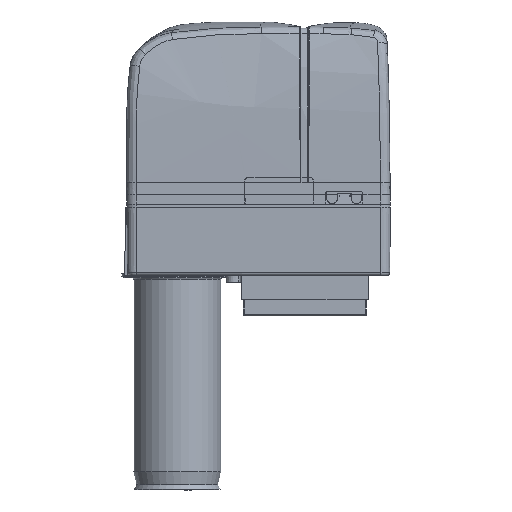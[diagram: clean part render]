
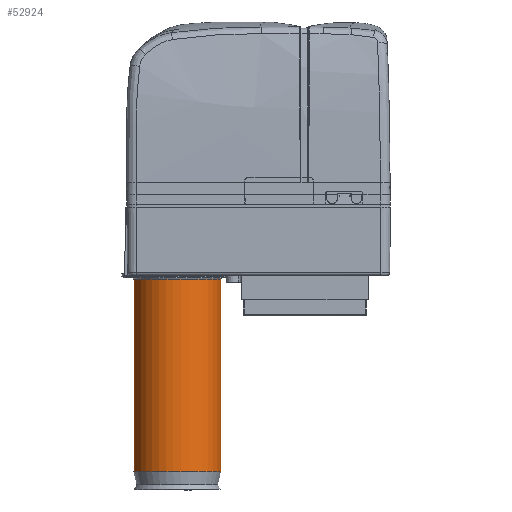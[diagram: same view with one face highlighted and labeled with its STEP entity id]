
A CAD part, left-side view. The second image highlights one B-rep face of the part: STEP entity #52924.
In plain terms, the highlighted cylindrical face has radius 45 mm (diameter 90 mm), a full revolution.
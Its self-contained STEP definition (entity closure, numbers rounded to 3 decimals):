
#1722 = CARTESIAN_POINT ( 'NONE',  ( -132.945, 34.208, -448.852 ) ) ;
#1964 = CARTESIAN_POINT ( 'NONE',  ( -129.006, 35.268, -448.449 ) ) ;
#2205 = CARTESIAN_POINT ( 'NONE',  ( -130.743, 34.753, -450.274 ) ) ;
#2446 = CARTESIAN_POINT ( 'NONE',  ( -132.945, 34.208, -447.497 ) ) ;
#5370 = VERTEX_POINT ( 'NONE', #58847 ) ;
#7093 = CARTESIAN_POINT ( 'NONE',  ( -132.842, 34.231, -449.106 ) ) ;
#7583 = CARTESIAN_POINT ( 'NONE',  ( -129.095, 35.24, -448.851 ) ) ;
#7821 = CARTESIAN_POINT ( 'NONE',  ( -132.984, 34.2, -448.721 ) ) ;
#8060 = CARTESIAN_POINT ( 'NONE',  ( -132.249, 34.368, -449.845 ) ) ;
#8386 = CARTESIAN_POINT ( 'NONE',  ( -99.189, 89.795, -459.325 ) ) ;
#8556 = CARTESIAN_POINT ( 'NONE',  ( -129.006, 35.268, -447.897 ) ) ;
#10929 = CARTESIAN_POINT ( 'NONE',  ( -142.656, 78.148, -261.674 ) ) ;
#12684 = CARTESIAN_POINT ( 'NONE',  ( -129.057, 35.252, -448.718 ) ) ;
#12916 = CARTESIAN_POINT ( 'NONE',  ( -129.403, 35.144, -449.454 ) ) ;
#13155 = CARTESIAN_POINT ( 'NONE',  ( -129.405, 35.143, -446.892 ) ) ;
#13405 = CARTESIAN_POINT ( 'NONE',  ( -131.14, 34.646, -450.274 ) ) ;
#14128 = CARTESIAN_POINT ( 'NONE',  ( -128.993, 35.272, -448.036 ) ) ;
#18047 = CARTESIAN_POINT ( 'NONE',  ( -130.484, 34.825, -446.141 ) ) ;
#18283 = CARTESIAN_POINT ( 'NONE',  ( -128.993, 35.272, -448.174 ) ) ;
#18441 = VERTEX_POINT ( 'NONE', #41544 ) ;
#18528 = CARTESIAN_POINT ( 'NONE',  ( -129.488, 35.118, -449.562 ) ) ;
#18622 = ORIENTED_EDGE ( 'NONE', *, *, #62838, .T. ) ;
#18768 = CARTESIAN_POINT ( 'NONE',  ( -132.028, 34.421, -449.997 ) ) ;
#18994 = DIRECTION ( 'NONE',  ( 0.966, 0.259, 0. ) ) ;
#19003 = CARTESIAN_POINT ( 'NONE',  ( -132.63, 34.279, -446.894 ) ) ;
#21829 = EDGE_CURVE ( 'NONE', #29883, #29883, #46963, .T. ) ;
#23687 = CARTESIAN_POINT ( 'NONE',  ( -130.114, 34.931, -446.286 ) ) ;
#24166 = CARTESIAN_POINT ( 'NONE',  ( -131.542, 34.541, -446.13 ) ) ;
#24403 = CARTESIAN_POINT ( 'NONE',  ( -130.477, 34.827, -450.219 ) ) ;
#24656 = CARTESIAN_POINT ( 'NONE',  ( -129.766, 35.033, -449.853 ) ) ;
#29294 = CARTESIAN_POINT ( 'NONE',  ( -129.676, 35.061, -446.59 ) ) ;
#29883 = VERTEX_POINT ( 'NONE', #8386 ) ;
#30018 = CARTESIAN_POINT ( 'NONE',  ( -132.842, 34.231, -447.243 ) ) ;
#30261 = CARTESIAN_POINT ( 'NONE',  ( -130.358, 34.861, -446.181 ) ) ;
#30922 = DIRECTION ( 'NONE',  ( 0., 0., 1. ) ) ;
#33197 = FACE_OUTER_BOUND ( 'NONE', #60140, .T. ) ;
#33380 = DIRECTION ( 'NONE',  ( 0.966, 0.259, 0. ) ) ;
#34928 = CARTESIAN_POINT ( 'NONE',  ( -128.993, 35.272, -448.313 ) ) ;
#35038 = ORIENTED_EDGE ( 'NONE', *, *, #21829, .T. ) ;
#35173 = CARTESIAN_POINT ( 'NONE',  ( -131.662, 34.512, -450.168 ) ) ;
#35647 = CARTESIAN_POINT ( 'NONE',  ( -129.991, 34.966, -450.009 ) ) ;
#35884 = CARTESIAN_POINT ( 'NONE',  ( -129.196, 35.208, -447.242 ) ) ;
#36712 = FACE_BOUND ( 'NONE', #72348, .T. ) ;
#39299 = B_SPLINE_CURVE_WITH_KNOTS ( 'NONE', 3,
 ( #18283, #34928, #1964, #12684, #7583, #40506, #68474, #12916, #18528, #24656, #35647, #24403, #2205, #13405, #52161, #41227, #35173, #57055, #18768, #8060, #69198, #40739, #40979, #57781, #7093, #1722, #7821, #46828, #46111, #51675, #63359, #41465, #2446, #30018, #52399, #19003, #47070, #57537, #51433, #24166, #63123, #58031, #63605, #18047, #30261, #23687, #46599, #62633, #29294, #57297, #13155, #68708, #35884, #68229, #58521, #8556, #14128, #63851 ),
 .UNSPECIFIED., .T., .F.,
 ( 4, 2, 2, 2, 2, 2, 2, 2, 2, 2, 2, 2, 2, 2, 2, 2, 2, 2, 2, 2, 2, 2, 2, 2, 2, 2, 2, 2, 4 ),
 ( 0., 0., 0.001, 0.001, 0.002, 0.002, 0.003, 0.004, 0.004, 0.005, 0.005, 0.005, 0.006, 0.006, 0.007, 0.007, 0.007, 0.008, 0.008, 0.009, 0.01, 0.01, 0.011, 0.011, 0.011, 0.012, 0.012, 0.013, 0.013 ),
 .UNSPECIFIED. ) ;
#40506 = CARTESIAN_POINT ( 'NONE',  ( -129.196, 35.208, -449.106 ) ) ;
#40739 = CARTESIAN_POINT ( 'NONE',  ( -132.544, 34.299, -449.562 ) ) ;
#40979 = CARTESIAN_POINT ( 'NONE',  ( -132.629, 34.279, -449.456 ) ) ;
#41003 = CYLINDRICAL_SURFACE ( 'NONE', #63982, 45. ) ;
#41227 = CARTESIAN_POINT ( 'NONE',  ( -131.535, 34.544, -450.207 ) ) ;
#41465 = CARTESIAN_POINT ( 'NONE',  ( -132.984, 34.2, -447.631 ) ) ;
#41544 = CARTESIAN_POINT ( 'NONE',  ( -128.993, 35.272, -448.174 ) ) ;
#43338 = AXIS2_PLACEMENT_3D ( 'NONE', #70809, #30922, #53542 ) ;
#46111 = CARTESIAN_POINT ( 'NONE',  ( -133.05, 34.185, -448.313 ) ) ;
#46599 = CARTESIAN_POINT ( 'NONE',  ( -129.996, 34.966, -446.352 ) ) ;
#46820 = CARTESIAN_POINT ( 'NONE',  ( -142.656, 78.148, -459.325 ) ) ;
#46828 = CARTESIAN_POINT ( 'NONE',  ( -133.036, 34.188, -448.452 ) ) ;
#46963 = CIRCLE ( 'NONE', #43338, 45. ) ;
#47070 = CARTESIAN_POINT ( 'NONE',  ( -132.544, 34.299, -446.786 ) ) ;
#51433 = CARTESIAN_POINT ( 'NONE',  ( -132.033, 34.419, -446.339 ) ) ;
#51675 = CARTESIAN_POINT ( 'NONE',  ( -133.05, 34.185, -448.036 ) ) ;
#52161 = CARTESIAN_POINT ( 'NONE',  ( -131.274, 34.611, -450.261 ) ) ;
#52399 = CARTESIAN_POINT ( 'NONE',  ( -132.779, 34.245, -447.123 ) ) ;
#52924 = ADVANCED_FACE ( 'NONE', ( #53232, #36712, #33197 ), #41003, .T. ) ;
#53232 = FACE_OUTER_BOUND ( 'NONE', #64985, .T. ) ;
#53542 = DIRECTION ( 'NONE',  ( 0.966, 0.259, 0. ) ) ;
#55693 = EDGE_CURVE ( 'NONE', #18441, #18441, #39299, .T. ) ;
#57055 = CARTESIAN_POINT ( 'NONE',  ( -131.909, 34.45, -450.063 ) ) ;
#57297 = CARTESIAN_POINT ( 'NONE',  ( -129.488, 35.118, -446.786 ) ) ;
#57537 = CARTESIAN_POINT ( 'NONE',  ( -132.261, 34.365, -446.496 ) ) ;
#57781 = CARTESIAN_POINT ( 'NONE',  ( -132.777, 34.246, -449.229 ) ) ;
#58031 = CARTESIAN_POINT ( 'NONE',  ( -130.878, 34.717, -446.074 ) ) ;
#58521 = CARTESIAN_POINT ( 'NONE',  ( -129.058, 35.252, -447.628 ) ) ;
#58847 = CARTESIAN_POINT ( 'NONE',  ( -99.189, 89.795, -261.674 ) ) ;
#60140 = EDGE_LOOP ( 'NONE', ( #35038 ) ) ;
#62335 = CIRCLE ( 'NONE', #65070, 45. ) ;
#62554 = DIRECTION ( 'NONE',  ( 0., 0., -1. ) ) ;
#62633 = CARTESIAN_POINT ( 'NONE',  ( -129.777, 35.03, -446.504 ) ) ;
#62838 = EDGE_CURVE ( 'NONE', #5370, #5370, #62335, .T. ) ;
#62865 = DIRECTION ( 'NONE',  ( 0., 0., 1. ) ) ;
#63123 = CARTESIAN_POINT ( 'NONE',  ( -131.275, 34.61, -446.075 ) ) ;
#63359 = CARTESIAN_POINT ( 'NONE',  ( -133.037, 34.188, -447.899 ) ) ;
#63605 = CARTESIAN_POINT ( 'NONE',  ( -130.744, 34.753, -446.088 ) ) ;
#63851 = CARTESIAN_POINT ( 'NONE',  ( -128.993, 35.272, -448.174 ) ) ;
#63885 = ORIENTED_EDGE ( 'NONE', *, *, #55693, .T. ) ;
#63982 = AXIS2_PLACEMENT_3D ( 'NONE', #46820, #62865, #18994 ) ;
#64985 = EDGE_LOOP ( 'NONE', ( #18622 ) ) ;
#65070 = AXIS2_PLACEMENT_3D ( 'NONE', #10929, #62554, #33380 ) ;
#68229 = CARTESIAN_POINT ( 'NONE',  ( -129.096, 35.24, -447.497 ) ) ;
#68474 = CARTESIAN_POINT ( 'NONE',  ( -129.258, 35.189, -449.226 ) ) ;
#68708 = CARTESIAN_POINT ( 'NONE',  ( -129.259, 35.188, -447.12 ) ) ;
#69198 = CARTESIAN_POINT ( 'NONE',  ( -132.353, 34.343, -449.758 ) ) ;
#70809 = CARTESIAN_POINT ( 'NONE',  ( -142.656, 78.148, -459.325 ) ) ;
#72348 = EDGE_LOOP ( 'NONE', ( #63885 ) ) ;
